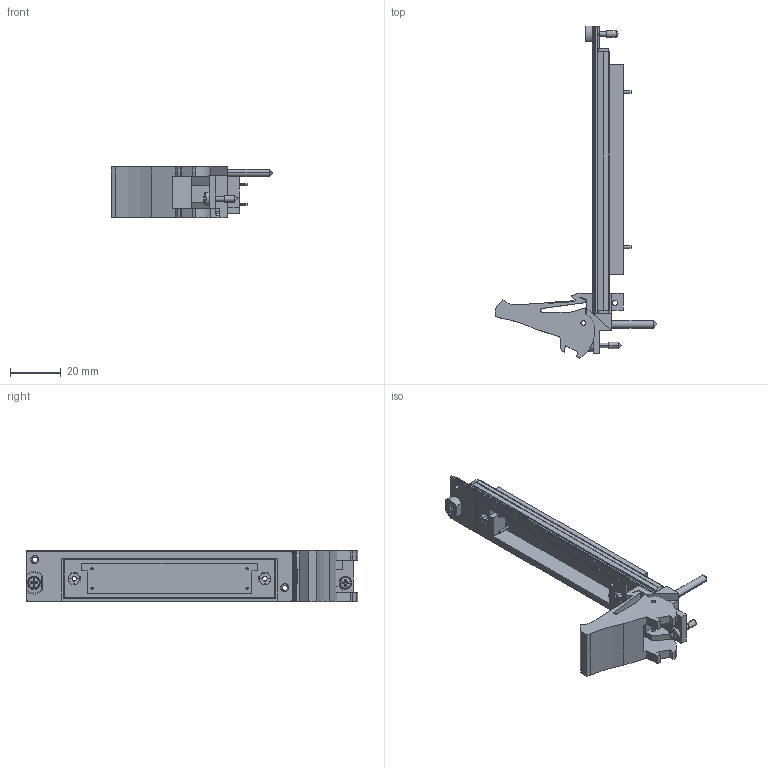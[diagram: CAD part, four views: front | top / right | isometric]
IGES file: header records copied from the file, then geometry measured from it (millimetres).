
Start section:  PTC IGES file: cu_pxie-2529.igs
Global section: file name: cu_pxie-2529.igs; native system: Pro/ENGINEER by Parametric Technology Corporation; preprocessor: 2006080; author: jjorden; organization: Unknown; date: 091105.164818; units: inch
Bounding box: 63.53 x 130.5 x 20.31 mm (x, y, z)
Surface area: 19767.7 mm2 (no closed solid volume)
Topology: 0 solids, 0 shells, 436 faces, 2328 edges, 2324 vertices
Faces by surface type: bspline 293, revolution 143
